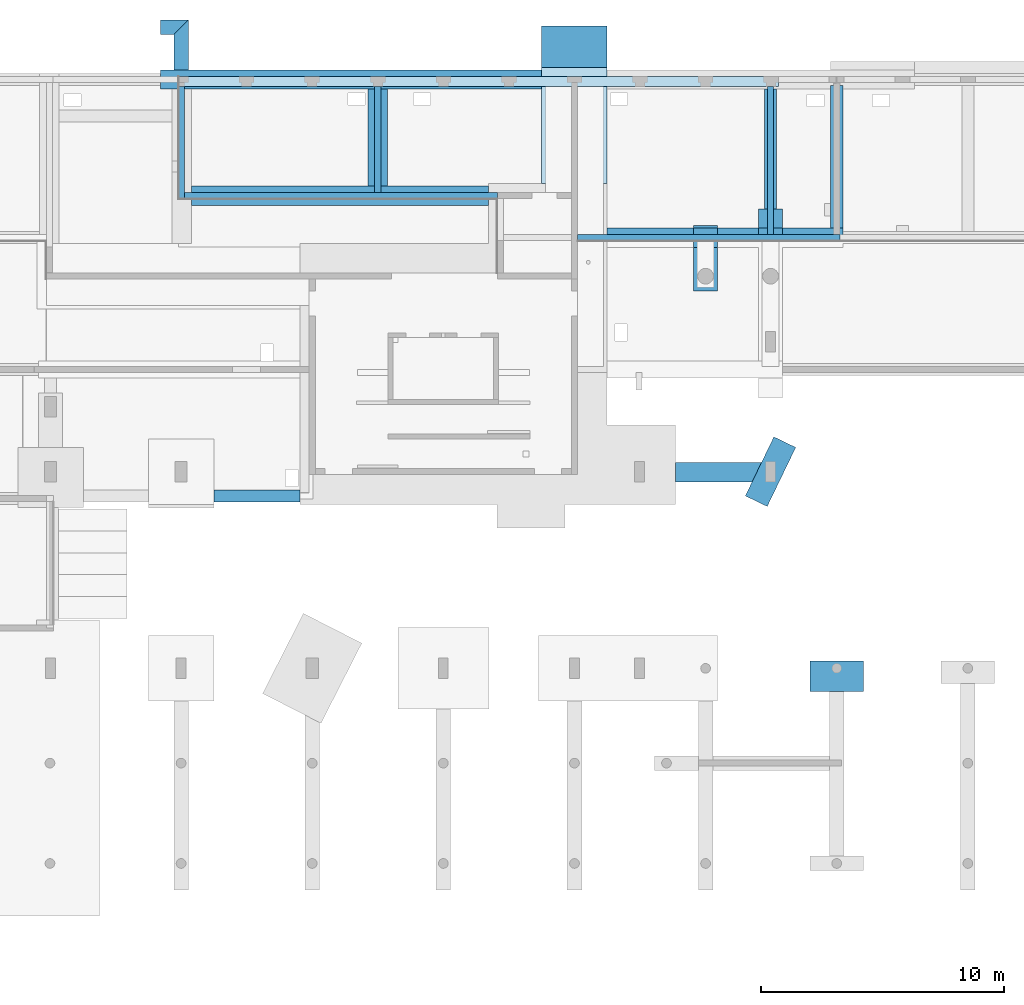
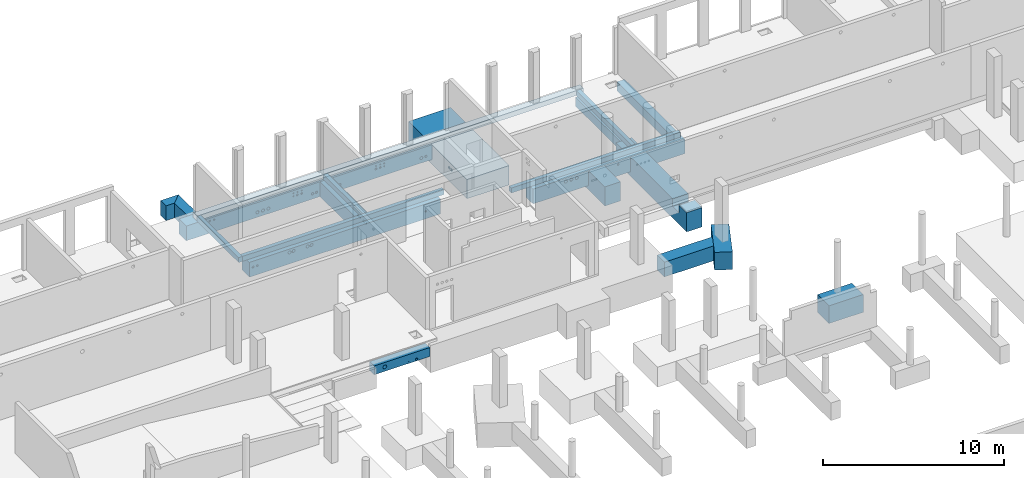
# One storey, part 4 of 60: 22 footings.
"""IFC2X3 building model written with IfcOpenShell, lengths in millimetres."""

from ifc_helpers import new_model, entity, si_unit, converted_unit, derived_unit, direction, frame, frame_2d, origin, place, context, subcontext, project, spatial, polyline, circle_curve, parameter, trimmed, segment, composite_curve, rectangle, outline, extrude, material, element, save


model = new_model("IFC2X3")

# Units and contexts
model_context = context("Model", 3, precision=0.01, world=origin(), true_north=direction((6.12303176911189e-17, 1.0)))
body_context = subcontext(model_context, "Body", "Model", "MODEL_VIEW")
ifc_project = project(units=[si_unit("LENGTHUNIT", "METRE", prefix="MILLI"), si_unit("AREAUNIT", "SQUARE_METRE"), si_unit("VOLUMEUNIT", "CUBIC_METRE"), converted_unit("PLANEANGLEUNIT", "DEGREE", entity("IfcRatioMeasure", 0.0174532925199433), si_unit("PLANEANGLEUNIT", "RADIAN"), dimensions=[0, 0, 0, 0, 0, 0, 0]), si_unit("MASSUNIT", "GRAM", prefix="KILO"), derived_unit("MASSDENSITYUNIT", [(si_unit("MASSUNIT", "GRAM", prefix="KILO"), 1), (si_unit("LENGTHUNIT", "METRE"), -3)]), si_unit("TIMEUNIT", "SECOND"), si_unit("FREQUENCYUNIT", "HERTZ"), si_unit("THERMODYNAMICTEMPERATUREUNIT", "DEGREE_CELSIUS"), derived_unit("THERMALTRANSMITTANCEUNIT", [(si_unit("MASSUNIT", "GRAM", prefix="KILO"), 1), (si_unit("THERMODYNAMICTEMPERATUREUNIT", "KELVIN"), -1), (si_unit("TIMEUNIT", "SECOND"), -3)]), derived_unit("VOLUMETRICFLOWRATEUNIT", [(si_unit("LENGTHUNIT", "METRE"), 3), (si_unit("TIMEUNIT", "SECOND"), -1)]), si_unit("ELECTRICCURRENTUNIT", "AMPERE"), si_unit("ELECTRICVOLTAGEUNIT", "VOLT"), si_unit("POWERUNIT", "WATT"), si_unit("FORCEUNIT", "NEWTON", prefix="KILO"), si_unit("ILLUMINANCEUNIT", "LUX"), si_unit("LUMINOUSFLUXUNIT", "LUMEN"), si_unit("LUMINOUSINTENSITYUNIT", "CANDELA"), derived_unit("USERDEFINED", [(si_unit("MASSUNIT", "GRAM", prefix="KILO"), -1), (si_unit("LENGTHUNIT", "METRE"), -2), (si_unit("TIMEUNIT", "SECOND"), 3), (si_unit("LUMINOUSFLUXUNIT", "LUMEN"), 1)]), derived_unit("LINEARVELOCITYUNIT", [(si_unit("LENGTHUNIT", "METRE"), 1), (si_unit("TIMEUNIT", "SECOND"), -1)]), si_unit("PRESSUREUNIT", "PASCAL"), derived_unit("USERDEFINED", [(si_unit("LENGTHUNIT", "METRE"), -2), (si_unit("MASSUNIT", "GRAM", prefix="KILO"), 1), (si_unit("TIMEUNIT", "SECOND"), -2)])], contexts=[model_context])

# Site, building, storey
site_placement = place(None, origin())
site = spatial("IfcSite", under=ifc_project, at=site_placement, Name="Default", CompositionType="ELEMENT")
building_placement = place(site_placement, origin())
building = spatial("IfcBuilding", under=site, at=building_placement, Name="niet gebruiken", CompositionType="ELEMENT")
storey_placement = place(building_placement, origin())
storey = spatial("IfcBuildingStorey", under=building, at=storey_placement, Name="00 begane grond", CompositionType="ELEMENT", Elevation=0.0)

# Footings
ifc_material = material(Name="NLRS_f2_beton ihwg")
footing_1_placement = place(storey_placement, origin())
element("IfcFooting", 1, at=footing_1_placement, inside=storey, material=ifc_material, Name="NLRS_16.12_SF_WPB_funderingsbalk ihwg recht_gen:500x600", ObjectType="NLRS_16.12_SF_WPB_funderingsbalk ihwg recht_gen:500x600", PredefinedType="FOOTING_BEAM", context=body_context, shape_type="SweptSolid", body=[
    extrude(rectangle(XDim=5860.00000000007, YDim=499.999999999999, at=frame_2d((-148.321101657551, -62.4999999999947), x_axis=(1.0, 0.0))), frame((59337.4999999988, 50099.3211016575, -1092.0), z_axis=(0.0, 0.0, 1.0), x_axis=(0.0, 1.0, 0.0)), (0.0, 0.0, 1.0), 599.999999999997),
])
footing_2_placement = place(storey_placement, origin())
element("IfcFooting", 2, at=footing_2_placement, inside=storey, material=ifc_material, Name="NLRS_16.12_SF_WPB_funderingsbalk ihwg recht_gen:800x1000", ObjectType="NLRS_16.12_SF_WPB_funderingsbalk ihwg recht_gen:800x1000", PredefinedType="FOOTING_BEAM", context=body_context, shape_type="SweptSolid", body=[
    extrude(rectangle(XDim=3980.0, YDim=800.0, at=frame_2d((4.32009983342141e-12, -4.34852154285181e-12), x_axis=(1.0, 0.0))), frame((40500.0, 50741.0, -1492.0), z_axis=(0.0, 0.0, 1.0), x_axis=(0.0, 1.0, 0.0)), (0.0, 0.0, 1.0), 999.999999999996),
])
footing_3_placement = place(storey_placement, origin())
element("IfcFooting", 3, at=footing_3_placement, inside=storey, material=ifc_material, Name="NLRS_16.12_SF_WPB_funderingsbalk ihwg recht_gen:800x1000", ObjectType="NLRS_16.12_SF_WPB_funderingsbalk ihwg recht_gen:800x1000", PredefinedType="FOOTING_BEAM", context=body_context, shape_type="SweptSolid", body=[
    extrude(outline(polyline([(-5208.33333329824, -500.0), (-1658.33333329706, -500.0), (-658.333333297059, -500.0), (1016.66666659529, -500.0), (2016.66666659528, -500.0), (4491.66666670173, -500.0), (4491.66666670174, 500.0), (2016.66666659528, 500.0), (1016.66666659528, 500.0), (-658.333333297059, 500.0), (-1658.33333329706, 500.0), (-5208.33333329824, 500.0), (-5208.33333329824, -500.0)]), holes=[composite_curve([segment(trimmed(circle_curve(frame_2d((-2758.2096558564, -277.0), x_axis=(1.0, 0.0)), 100.0), [parameter(4.07110999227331e-13)], [parameter(180.0)], True, "PARAMETER"), False, "CONTINUOUS"), segment(trimmed(circle_curve(frame_2d((-2758.2096558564, -277.0), x_axis=(1.0, 0.0)), 100.0), [parameter(180.0)], [parameter(360.0)], True, "PARAMETER"), False, "CONTINUOUS")], self_intersect=False), composite_curve([segment(trimmed(circle_curve(frame_2d((-3108.2096558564, -277.0), x_axis=(1.0, 0.0)), 100.0), [parameter(4.07110999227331e-13)], [parameter(180.0)], True, "PARAMETER"), False, "CONTINUOUS"), segment(trimmed(circle_curve(frame_2d((-3108.2096558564, -277.0), x_axis=(1.0, 0.0)), 100.0), [parameter(180.0)], [parameter(360.0)], True, "PARAMETER"), False, "CONTINUOUS")], self_intersect=False), composite_curve([segment(trimmed(circle_curve(frame_2d((-2408.20965585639, -277.0), x_axis=(1.0, 0.0)), 100.0), [parameter(4.07110999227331e-13)], [parameter(180.0)], True, "PARAMETER"), False, "CONTINUOUS"), segment(trimmed(circle_curve(frame_2d((-2408.20965585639, -277.0), x_axis=(1.0, 0.0)), 100.0), [parameter(180.0)], [parameter(360.0)], True, "PARAMETER"), False, "CONTINUOUS")], self_intersect=False), composite_curve([segment(trimmed(circle_curve(frame_2d((241.790344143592, -262.0), x_axis=(1.0, 0.0)), 62.5), [parameter(3.56222124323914e-13)], [parameter(180.0)], True, "PARAMETER"), False, "CONTINUOUS"), segment(trimmed(circle_curve(frame_2d((241.790344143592, -262.0), x_axis=(1.0, 0.0)), 62.5), [parameter(180.0)], [parameter(360.0)], True, "PARAMETER"), False, "CONTINUOUS")], self_intersect=False)]), frame((55158.333333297, 46221.0, -992.0), z_axis=(0.0, 1.0, 0.0), x_axis=(1.0, 0.0, 0.0)), (0.0, 0.0, 1.0), 800.0),
])
footing_4_placement = place(storey_placement, origin())
element("IfcFooting", 4, at=footing_4_placement, inside=storey, material=ifc_material, Name="NLRS_16.12_SF_WPB_funderingsbalk ihwg recht_gen:800x1000", ObjectType="NLRS_16.12_SF_WPB_funderingsbalk ihwg recht_gen:800x1000", PredefinedType="FOOTING_BEAM", context=body_context, shape_type="SweptSolid", body=[
    extrude(outline(polyline([(-6112.49999999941, -500.0), (6112.49999999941, -500.0), (6112.49999999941, 500.0), (-6112.49999999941, 500.0), (-6112.49999999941, -500.0)]), holes=[composite_curve([segment(trimmed(circle_curve(frame_2d((-5162.6196236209, 2.0), x_axis=(-1.0, 0.0)), 55.0), [parameter(4.07110999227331e-13)], [parameter(180.0)], True, "PARAMETER"), False, "CONTINUOUS"), segment(trimmed(circle_curve(frame_2d((-5162.6196236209, 2.0), x_axis=(-1.0, 0.0)), 55.0), [parameter(180.0)], [parameter(360.0)], True, "PARAMETER"), False, "CONTINUOUS")], self_intersect=False), composite_curve([segment(trimmed(circle_curve(frame_2d((2137.37632255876, 277.0), x_axis=(1.0, 0.0)), 100.0), [parameter(180.0)], [parameter(360.0)], True, "PARAMETER"), False, "CONTINUOUS"), segment(trimmed(circle_curve(frame_2d((2137.37632255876, 277.0), x_axis=(1.0, 0.0)), 100.0), [parameter(4.07110999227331e-13)], [parameter(180.0)], True, "PARAMETER"), False, "CONTINUOUS")], self_intersect=False), composite_curve([segment(trimmed(circle_curve(frame_2d((2387.37632255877, 277.0), x_axis=(1.0, 0.0)), 100.0), [parameter(180.0)], [parameter(360.0)], True, "PARAMETER"), False, "CONTINUOUS"), segment(trimmed(circle_curve(frame_2d((2387.37632255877, 277.0), x_axis=(1.0, 0.0)), 100.0), [parameter(4.07110999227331e-13)], [parameter(180.0)], True, "PARAMETER"), False, "CONTINUOUS")], self_intersect=False), composite_curve([segment(trimmed(circle_curve(frame_2d((3537.3270997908, 277.0), x_axis=(1.0, 0.0)), 100.0), [parameter(180.0)], [parameter(360.0)], True, "PARAMETER"), False, "CONTINUOUS"), segment(trimmed(circle_curve(frame_2d((3537.3270997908, 277.0), x_axis=(1.0, 0.0)), 100.0), [parameter(4.07110999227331e-13)], [parameter(180.0)], True, "PARAMETER"), False, "CONTINUOUS")], self_intersect=False), composite_curve([segment(trimmed(circle_curve(frame_2d((3287.3270997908, 277.0), x_axis=(1.0, 0.0)), 100.0), [parameter(180.0)], [parameter(360.0)], True, "PARAMETER"), False, "CONTINUOUS"), segment(trimmed(circle_curve(frame_2d((3287.3270997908, 277.0), x_axis=(1.0, 0.0)), 100.0), [parameter(4.07110999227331e-13)], [parameter(180.0)], True, "PARAMETER"), False, "CONTINUOUS")], self_intersect=False), composite_curve([segment(trimmed(circle_curve(frame_2d((5602.50000000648, 102.0), x_axis=(1.0, 0.0)), 62.5), [parameter(180.0)], [parameter(360.0)], True, "PARAMETER"), False, "CONTINUOUS"), segment(trimmed(circle_curve(frame_2d((5602.50000000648, 102.0), x_axis=(1.0, 0.0)), 62.5), [parameter(3.56222124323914e-13)], [parameter(180.0)], True, "PARAMETER"), False, "CONTINUOUS")], self_intersect=False), composite_curve([segment(trimmed(circle_curve(frame_2d((5877.50000000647, 102.0), x_axis=(1.0, 0.0)), 62.5), [parameter(180.0)], [parameter(360.0)], True, "PARAMETER"), False, "CONTINUOUS"), segment(trimmed(circle_curve(frame_2d((5877.50000000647, 102.0), x_axis=(1.0, 0.0)), 62.5), [parameter(3.56222124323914e-13)], [parameter(180.0)], True, "PARAMETER"), False, "CONTINUOUS")], self_intersect=False)]), frame((38937.4999999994, 47951.0, -992.0), z_axis=(0.0, 1.0, 0.0), x_axis=(-1.0, 0.0, 0.0)), (0.0, 0.0, 1.0), 800.0),
])
footing_5_placement = place(storey_placement, origin())
element("IfcFooting", 5, at=footing_5_placement, inside=storey, material=ifc_material, Name="NLRS_16.12_SF_WPB_funderingsbalk ihwg recht_gen:800x1000", ObjectType="NLRS_16.12_SF_WPB_funderingsbalk ihwg recht_gen:800x1000", PredefinedType="FOOTING_BEAM", context=body_context, shape_type="SweptSolid", body=[
    extrude(outline(polyline([(-5887.50000000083, -500.0), (-5417.49999999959, -500.0), (-4617.49999999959, -500.0), (2657.50000000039, -500.0), (3457.50000000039, -500.0), (9807.49999999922, -500.0), (9807.49999999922, 500.0), (3457.50000000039, 500.0), (2657.50000000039, 500.0), (-4617.49999999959, 500.0), (-5417.49999999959, 500.0), (-5887.50000000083, 500.0), (-5887.50000000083, -500.0)]), holes=[composite_curve([segment(trimmed(circle_curve(frame_2d((957.4999999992, -317.0), x_axis=(-1.0, 0.0)), 40.0), [parameter(180.0)], [parameter(360.0)], True, "PARAMETER"), False, "CONTINUOUS"), segment(trimmed(circle_curve(frame_2d((957.4999999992, -317.0), x_axis=(-1.0, 0.0)), 40.0), [parameter(4.07110999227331e-13)], [parameter(180.0)], True, "PARAMETER"), False, "CONTINUOUS")], self_intersect=False), composite_curve([segment(trimmed(circle_curve(frame_2d((1207.4999999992, -317.0), x_axis=(-1.0, 0.0)), 37.5), [parameter(180.0)], [parameter(360.0)], True, "PARAMETER"), False, "CONTINUOUS"), segment(trimmed(circle_curve(frame_2d((1207.4999999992, -317.0), x_axis=(-1.0, 0.0)), 37.5), [parameter(4.07110999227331e-13)], [parameter(180.0)], True, "PARAMETER"), False, "CONTINUOUS")], self_intersect=False), composite_curve([segment(trimmed(circle_curve(frame_2d((1482.49999999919, -317.0), x_axis=(-1.0, 0.0)), 40.0), [parameter(180.0)], [parameter(360.0)], True, "PARAMETER"), False, "CONTINUOUS"), segment(trimmed(circle_curve(frame_2d((1482.49999999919, -317.0), x_axis=(-1.0, 0.0)), 40.0), [parameter(4.07110999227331e-13)], [parameter(180.0)], True, "PARAMETER"), False, "CONTINUOUS")], self_intersect=False), composite_curve([segment(trimmed(circle_curve(frame_2d((1482.49999999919, -117.0), x_axis=(-1.0, 0.0)), 62.5), [parameter(180.0)], [parameter(360.0)], True, "PARAMETER"), False, "CONTINUOUS"), segment(trimmed(circle_curve(frame_2d((1482.49999999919, -117.0), x_axis=(-1.0, 0.0)), 62.5), [parameter(3.56222124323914e-13)], [parameter(180.0)], True, "PARAMETER"), False, "CONTINUOUS")], self_intersect=False), composite_curve([segment(trimmed(circle_curve(frame_2d((-642.37632255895, 158.0), x_axis=(-1.0, 0.0)), 100.0), [parameter(180.0)], [parameter(360.0)], True, "PARAMETER"), False, "CONTINUOUS"), segment(trimmed(circle_curve(frame_2d((-642.37632255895, 158.0), x_axis=(-1.0, 0.0)), 100.0), [parameter(4.07110999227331e-13)], [parameter(180.0)], True, "PARAMETER"), False, "CONTINUOUS")], self_intersect=False), composite_curve([segment(trimmed(circle_curve(frame_2d((-992.376322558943, 158.0), x_axis=(-1.0, 0.0)), 100.0), [parameter(180.0)], [parameter(360.0)], True, "PARAMETER"), False, "CONTINUOUS"), segment(trimmed(circle_curve(frame_2d((-992.376322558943, 158.0), x_axis=(-1.0, 0.0)), 100.0), [parameter(4.07110999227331e-13)], [parameter(180.0)], True, "PARAMETER"), False, "CONTINUOUS")], self_intersect=False), composite_curve([segment(trimmed(circle_curve(frame_2d((-1342.37632255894, 158.0), x_axis=(-1.0, 0.0)), 100.0), [parameter(180.0)], [parameter(360.0)], True, "PARAMETER"), False, "CONTINUOUS"), segment(trimmed(circle_curve(frame_2d((-1342.37632255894, 158.0), x_axis=(-1.0, 0.0)), 100.0), [parameter(4.07110999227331e-13)], [parameter(180.0)], True, "PARAMETER"), False, "CONTINUOUS")], self_intersect=False), composite_curve([segment(trimmed(circle_curve(frame_2d((2432.62367744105, 138.0), x_axis=(-1.0, 0.0)), 80.0), [parameter(180.0)], [parameter(360.0)], True, "PARAMETER"), False, "CONTINUOUS"), segment(trimmed(circle_curve(frame_2d((2432.62367744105, 138.0), x_axis=(-1.0, 0.0)), 80.0), [parameter(3.05333249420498e-13)], [parameter(180.0)], True, "PARAMETER"), False, "CONTINUOUS")], self_intersect=False), composite_curve([segment(trimmed(circle_curve(frame_2d((2182.73159649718, 138.0), x_axis=(-1.0, 0.0)), 80.0), [parameter(180.0)], [parameter(360.0)], True, "PARAMETER"), False, "CONTINUOUS"), segment(trimmed(circle_curve(frame_2d((2182.73159649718, 138.0), x_axis=(-1.0, 0.0)), 80.0), [parameter(3.05333249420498e-13)], [parameter(180.0)], True, "PARAMETER"), False, "CONTINUOUS")], self_intersect=False), composite_curve([segment(trimmed(circle_curve(frame_2d((3682.62367744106, 138.0), x_axis=(-1.0, 0.0)), 80.0), [parameter(180.0)], [parameter(360.0)], True, "PARAMETER"), False, "CONTINUOUS"), segment(trimmed(circle_curve(frame_2d((3682.62367744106, 138.0), x_axis=(-1.0, 0.0)), 80.0), [parameter(4.07110999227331e-13)], [parameter(180.0)], True, "PARAMETER"), False, "CONTINUOUS")], self_intersect=False), composite_curve([segment(trimmed(circle_curve(frame_2d((3932.51575838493, 138.0), x_axis=(-1.0, 0.0)), 80.0), [parameter(180.0)], [parameter(360.0)], True, "PARAMETER"), False, "CONTINUOUS"), segment(trimmed(circle_curve(frame_2d((3932.51575838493, 138.0), x_axis=(-1.0, 0.0)), 80.0), [parameter(3.05333249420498e-13)], [parameter(180.0)], True, "PARAMETER"), False, "CONTINUOUS")], self_intersect=False), composite_curve([segment(trimmed(circle_curve(frame_2d((6757.49999999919, -117.0), x_axis=(1.0, 0.0)), 37.5), [parameter(2.03555499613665e-13)], [parameter(180.0)], True, "PARAMETER"), False, "CONTINUOUS"), segment(trimmed(circle_curve(frame_2d((6757.49999999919, -117.0), x_axis=(1.0, 0.0)), 37.5), [parameter(180.0)], [parameter(359.999999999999)], True, "PARAMETER"), False, "CONTINUOUS")], self_intersect=False), composite_curve([segment(trimmed(circle_curve(frame_2d((6757.49999999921, -317.0), x_axis=(1.0, 0.0)), 40.0), [parameter(2.03555499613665e-13)], [parameter(180.0)], True, "PARAMETER"), False, "CONTINUOUS"), segment(trimmed(circle_curve(frame_2d((6757.49999999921, -317.0), x_axis=(1.0, 0.0)), 40.0), [parameter(180.0)], [parameter(359.999999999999)], True, "PARAMETER"), False, "CONTINUOUS")], self_intersect=False), composite_curve([segment(trimmed(circle_curve(frame_2d((6507.49999999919, -117.0), x_axis=(1.0, 0.0)), 62.5), [parameter(3.56222124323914e-13)], [parameter(180.0)], True, "PARAMETER"), False, "CONTINUOUS"), segment(trimmed(circle_curve(frame_2d((6507.49999999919, -117.0), x_axis=(1.0, 0.0)), 62.5), [parameter(180.0)], [parameter(360.0)], True, "PARAMETER"), False, "CONTINUOUS")], self_intersect=False), composite_curve([segment(trimmed(circle_curve(frame_2d((6232.49999999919, -117.0), x_axis=(1.0, 0.0)), 62.5), [parameter(3.56222124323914e-13)], [parameter(180.0)], True, "PARAMETER"), False, "CONTINUOUS"), segment(trimmed(circle_curve(frame_2d((6232.49999999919, -117.0), x_axis=(1.0, 0.0)), 62.5), [parameter(180.0)], [parameter(360.0)], True, "PARAMETER"), False, "CONTINUOUS")], self_intersect=False), composite_curve([segment(trimmed(circle_curve(frame_2d((6232.4999999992, -317.0), x_axis=(1.0, 0.0)), 40.0), [parameter(5.5977762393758e-13)], [parameter(180.0)], True, "PARAMETER"), False, "CONTINUOUS"), segment(trimmed(circle_curve(frame_2d((6232.4999999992, -317.0), x_axis=(1.0, 0.0)), 40.0), [parameter(180.0)], [parameter(360.0)], True, "PARAMETER"), False, "CONTINUOUS")], self_intersect=False), composite_curve([segment(trimmed(circle_curve(frame_2d((6507.49999999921, -317.0), x_axis=(1.0, 0.0)), 37.5), [parameter(2.03555499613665e-13)], [parameter(180.0)], True, "PARAMETER"), False, "CONTINUOUS"), segment(trimmed(circle_curve(frame_2d((6507.49999999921, -317.0), x_axis=(1.0, 0.0)), 37.5), [parameter(180.0)], [parameter(359.999999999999)], True, "PARAMETER"), False, "CONTINUOUS")], self_intersect=False), composite_curve([segment(trimmed(circle_curve(frame_2d((-4107.49999999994, -312.0), x_axis=(-1.0, 0.0)), 55.0), [parameter(180.0)], [parameter(360.0)], True, "PARAMETER"), False, "CONTINUOUS"), segment(trimmed(circle_curve(frame_2d((-4107.49999999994, -312.0), x_axis=(-1.0, 0.0)), 55.0), [parameter(4.07110999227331e-13)], [parameter(180.0)], True, "PARAMETER"), False, "CONTINUOUS")], self_intersect=False), composite_curve([segment(trimmed(circle_curve(frame_2d((-4382.49999999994, -312.0), x_axis=(-1.0, 0.0)), 55.0), [parameter(180.0)], [parameter(360.0)], True, "PARAMETER"), False, "CONTINUOUS"), segment(trimmed(circle_curve(frame_2d((-4382.49999999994, -312.0), x_axis=(-1.0, 0.0)), 55.0), [parameter(4.07110999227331e-13)], [parameter(180.0)], True, "PARAMETER"), False, "CONTINUOUS")], self_intersect=False), composite_curve([segment(trimmed(circle_curve(frame_2d((1207.4999999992, -117.0), x_axis=(-1.0, 0.0)), 62.5), [parameter(180.0)], [parameter(360.0)], True, "PARAMETER"), False, "CONTINUOUS"), segment(trimmed(circle_curve(frame_2d((1207.4999999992, -117.0), x_axis=(-1.0, 0.0)), 62.5), [parameter(3.56222124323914e-13)], [parameter(180.0)], True, "PARAMETER"), False, "CONTINUOUS")], self_intersect=False), composite_curve([segment(trimmed(circle_curve(frame_2d((957.4999999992, -117.0), x_axis=(-1.0, 0.0)), 37.5), [parameter(180.0)], [parameter(360.0)], True, "PARAMETER"), False, "CONTINUOUS"), segment(trimmed(circle_curve(frame_2d((957.4999999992, -117.0), x_axis=(-1.0, 0.0)), 37.5), [parameter(4.07110999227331e-13)], [parameter(180.0)], True, "PARAMETER"), False, "CONTINUOUS")], self_intersect=False), composite_curve([segment(trimmed(circle_curve(frame_2d((9427.49999999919, 158.0), x_axis=(-1.0, 0.0)), 80.0), [parameter(180.0)], [parameter(360.0)], True, "PARAMETER"), False, "CONTINUOUS"), segment(trimmed(circle_curve(frame_2d((9427.49999999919, 158.0), x_axis=(-1.0, 0.0)), 80.0), [parameter(5.08888749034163e-13)], [parameter(180.0)], True, "PARAMETER"), False, "CONTINUOUS")], self_intersect=False), composite_curve([segment(trimmed(circle_curve(frame_2d((9127.49999999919, 158.0), x_axis=(-1.0, 0.0)), 100.0), [parameter(180.0)], [parameter(360.0)], True, "PARAMETER"), False, "CONTINUOUS"), segment(trimmed(circle_curve(frame_2d((9127.49999999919, 158.0), x_axis=(-1.0, 0.0)), 100.0), [parameter(4.07110999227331e-13)], [parameter(180.0)], True, "PARAMETER"), False, "CONTINUOUS")], self_intersect=False)]), frame((37442.4999999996, 52731.0, -992.0), z_axis=(0.0, 1.0, 0.0), x_axis=(1.0, 0.0, 0.0)), (0.0, 0.0, 1.0), 800.0),
])
footing_6_placement = place(storey_placement, origin())
element("IfcFooting", 6, at=footing_6_placement, inside=storey, material=ifc_material, Name="NLRS_16.12_SF_WPB_opstort ihwg recht_gen:250x332", ObjectType="NLRS_16.12_SF_WPB_opstort ihwg recht_gen:250x332", PredefinedType="FOOTING_BEAM", context=body_context, shape_type="SweptSolid", body=[
    extrude(rectangle(XDim=10800.0, YDim=250.000000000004, at=frame_2d((507.692307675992, -9.61538461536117), x_axis=(1.0, 0.0))), frame((54632.6923076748, 46611.3846153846, -492.0), z_axis=(0.0, 0.0, 1.0), x_axis=(-1.0, 0.0, 0.0)), (0.0, 0.0, 1.0), 331.999999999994),
])
footing_7_placement = place(storey_placement, origin())
element("IfcFooting", 7, at=footing_7_placement, inside=storey, material=ifc_material, Name="NLRS_16.12_SF_WPB_opstort ihwg recht_gen:250x332", ObjectType="NLRS_16.12_SF_WPB_opstort ihwg recht_gen:250x332", PredefinedType="FOOTING_BEAM", context=body_context, shape_type="SweptSolid", body=[
    extrude(rectangle(XDim=12874.9999999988, YDim=249.999999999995, at=frame_2d((-504.166666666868, -41.6666666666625), x_axis=(1.0, 0.0))), frame((39491.6666666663, 48392.6666666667, -492.0)), (0.0, 0.0, 1.0), 331.999999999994),
])
footing_8_placement = place(storey_placement, origin())
element("IfcFooting", 8, at=footing_8_placement, inside=storey, material=ifc_material, Name="NLRS_16.12_SF_WPB_opstort ihwg recht_gen:250x332", ObjectType="NLRS_16.12_SF_WPB_opstort ihwg recht_gen:250x332", PredefinedType="FOOTING_BEAM", context=body_context, shape_type="SweptSolid", body=[
    extrude(rectangle(XDim=4620.00000000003, YDim=249.999999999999, at=frame_2d((574.36132915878, -17.8571428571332), x_axis=(1.0, 0.0))), frame((32407.1428571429, 49961.6386708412, -492.0), z_axis=(0.0, 0.0, 1.0), x_axis=(0.0, 1.0, 0.0)), (0.0, 0.0, 1.0), 331.999999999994),
])
footing_9_placement = place(storey_placement, origin())
element("IfcFooting", 9, at=footing_9_placement, inside=storey, material=ifc_material, Name="NLRS_16.12_SF_WPB_funderingsbalk ihwg recht_gen:2700x1300", ObjectType="NLRS_16.12_SF_WPB_funderingsbalk ihwg recht_gen:2700x1300", PredefinedType="FOOTING_BEAM", context=body_context, shape_type="SweptSolid", body=[
    extrude(outline(polyline([(-3020.0, -866.666666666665), (1760.0, -866.666666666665), (1760.0, 433.333333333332), (1660.0, 433.333333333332), (860.0, 433.333333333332), (-3020.0, 433.333333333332), (-3020.0, -866.666666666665)]), holes=[composite_curve([segment(trimmed(circle_curve(frame_2d((-1315.26100363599, 40.3333333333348), x_axis=(1.0, 0.0)), 80.0), [parameter(180.0)], [parameter(360.0)], True, "PARAMETER"), False, "CONTINUOUS"), segment(trimmed(circle_curve(frame_2d((-1315.26100363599, 40.3333333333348), x_axis=(1.0, 0.0)), 80.0), [parameter(3.05333249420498e-13)], [parameter(180.0)], True, "PARAMETER"), False, "CONTINUOUS")], self_intersect=False), composite_curve([segment(trimmed(circle_curve(frame_2d((-1065.26100363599, 40.3333333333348), x_axis=(1.0, 0.0)), 80.0), [parameter(180.0)], [parameter(360.0)], True, "PARAMETER"), False, "CONTINUOUS"), segment(trimmed(circle_curve(frame_2d((-1065.26100363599, 40.3333333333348), x_axis=(1.0, 0.0)), 80.0), [parameter(3.05333249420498e-13)], [parameter(180.0)], True, "PARAMETER"), False, "CONTINUOUS")], self_intersect=False)]), frame((47250.0, 51871.0, -925.333333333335), z_axis=(1.0, 0.0, 0.0), x_axis=(0.0, 1.0, 0.0)), (0.0, 0.0, 1.0), 2700.0),
])
footing_10_placement = place(storey_placement, origin())
element("IfcFooting", 10, at=footing_10_placement, inside=storey, material=ifc_material, Name="NLRS_16.12_SF_WPB_opstort ihwg recht_gen:250x332", ObjectType="NLRS_16.12_SF_WPB_opstort ihwg recht_gen:250x332", PredefinedType="FOOTING_BEAM", context=body_context, shape_type="SweptSolid", body=[
    extrude(rectangle(XDim=4370.00000000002, YDim=250.000000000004, at=frame_2d((8.64019966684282e-12, 4.33431068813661e-12), x_axis=(1.0, 0.0))), frame((40500.0, 50661.0, -492.0), z_axis=(0.0, 0.0, 1.0), x_axis=(0.0, 1.0, 0.0)), (0.0, 0.0, 1.0), 331.999999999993),
])
footing_11_placement = place(storey_placement, origin())
element("IfcFooting", 11, at=footing_11_placement, inside=storey, material=ifc_material, Name="NLRS_16.12_SF_WPB_opstort ihwg recht_gen:250x332", ObjectType="NLRS_16.12_SF_WPB_opstort ihwg recht_gen:250x332", PredefinedType="FOOTING_BEAM", context=body_context, shape_type="SweptSolid", body=[
    extrude(rectangle(XDim=6099.99999999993, YDim=249.999999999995, at=frame_2d((4.32009983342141e-12, 0.0), x_axis=(1.0, 0.0))), frame((56675.0, 49796.0, -492.0), z_axis=(0.0, 0.0, 1.0), x_axis=(0.0, 1.0, 0.0)), (0.0, 0.0, 1.0), 331.999999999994),
])
footing_12_placement = place(storey_placement, origin())
element("IfcFooting", 12, at=footing_12_placement, inside=storey, material=ifc_material, Name="NLRS_16.12_SF_WPB_funderingsbalk ihwg recht_gen:1000x1300", ObjectType="NLRS_16.12_SF_WPB_funderingsbalk ihwg recht_gen:1000x1300", PredefinedType="FOOTING_BEAM", context=body_context, shape_type="SweptSolid", body=[
    extrude(outline(polyline([(-925.0, -575.0), (-825.0, -575.0), (-825.0, 425.0), (-25.0, 425.0), (-25.0, -575.0), (1775.0, -575.0), (1775.0, 725.0), (-925.0, 725.0), (-925.0, -575.0)])), frame((53500.0, 46196.0, -1067.0), z_axis=(1.0, 0.0, 0.0), x_axis=(0.0, -1.0, 0.0)), (0.0, 0.0, 1.0), 999.999999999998),
])
footing_13_placement = place(storey_placement, origin())
element("IfcFooting", 13, at=footing_13_placement, inside=storey, material=ifc_material, Name="NLRS_16.12_SF_WPB_funderingsbalk ihwg recht_gen:1000x1300", ObjectType="NLRS_16.12_SF_WPB_funderingsbalk ihwg recht_gen:1000x1300", PredefinedType="FOOTING_BEAM", context=body_context, shape_type="SweptSolid", body=[
    extrude(outline(polyline([(-3899.66666665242, -831.666666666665), (3900.33333357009, -831.666666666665), (3900.33333357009, 468.333333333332), (3117.33333327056, 468.333333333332), (3117.33333327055, -531.666666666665), (2317.33333327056, -531.666666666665), (2317.33333327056, 468.333333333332), (-2367.66666672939, 468.333333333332), (-2367.66666672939, -41.666666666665), (-3067.66666672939, -41.666666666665), (-3067.66666672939, 468.333333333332), (-3899.66666665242, 468.333333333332), (-3899.66666665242, -831.666666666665)])), frame((56175.0, 43903.6666667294, -960.333333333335), z_axis=(1.0, 0.0, 0.0), x_axis=(0.0, 1.0, 0.0)), (0.0, 0.0, 1.0), 999.999999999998),
])
footing_14_placement = place(storey_placement, origin())
element("IfcFooting", 14, at=footing_14_placement, inside=storey, material=ifc_material, Name="NLRS_16.12_SF_WPB_funderingsbalk ihwg recht_gen:500x600", ObjectType="NLRS_16.12_SF_WPB_funderingsbalk ihwg recht_gen:500x600", PredefinedType="FOOTING_BEAM", context=body_context, shape_type="SweptSolid", body=[
    extrude(rectangle(XDim=4926.99999969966, YDim=500.000000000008, at=frame_2d((-4.15866452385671e-10, 4.33431068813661e-12), x_axis=(1.0, 0.0))), frame((56675.0, 50267.5000001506, -1092.0), z_axis=(0.0, 0.0, 1.0), x_axis=(0.0, -1.0, 0.0)), (0.0, 0.0, 1.0), 599.999999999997),
])
footing_15_placement = place(storey_placement, origin())
element("IfcFooting", 15, at=footing_15_placement, inside=storey, material=ifc_material, Name="NLRS_16.12_SF_WPB_funderingsbalk ihwg recht_gen:1000x1200", ObjectType="NLRS_16.12_SF_WPB_funderingsbalk ihwg recht_gen:1000x1200", PredefinedType="FOOTING_BEAM", context=body_context, shape_type="SweptSolid", body=[
    extrude(rectangle(XDim=2700.00000001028, YDim=1000.00000000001, at=frame_2d((-1.93267624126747e-12, 3.89377419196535e-12), x_axis=(1.0, 0.0))), frame((56675.0, 36981.0, -1750.0), z_axis=(0.0, 0.0, 1.0), x_axis=(-0.435407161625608, -0.900233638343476, 0.0)), (0.0, 0.0, 1.0), 1200.0),
])
footing_16_placement = place(storey_placement, origin())
element("IfcFooting", 16, at=footing_16_placement, inside=storey, material=ifc_material, Name="NLRS_16.12_SF_WPB_funderingsbalk ihwg recht_gen:1260x1200", ObjectType="NLRS_16.12_SF_WPB_funderingsbalk ihwg recht_gen:1260x1200", PredefinedType="FOOTING_BEAM", context=body_context, shape_type="SweptSolid", body=[
    extrude(rectangle(XDim=2199.99999999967, YDim=1260.0, at=frame_2d((-5.32054400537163e-11, 210.000000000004), x_axis=(1.0, 0.0))), frame((59400.0, 28341.0, -1400.0)), (0.0, 0.0, 1.0), 1200.0),
])
footing_17_placement = place(storey_placement, origin())
element("IfcFooting", 17, at=footing_17_placement, inside=storey, material=ifc_material, Name="NLRS_16.12_SF_WPB_funderingsbalk ihwg recht_gen:500x600", ObjectType="NLRS_16.12_SF_WPB_funderingsbalk ihwg recht_gen:500x600", PredefinedType="FOOTING_BEAM", context=body_context, shape_type="SweptSolid", body=[
    extrude(outline(polyline([(-1775.0, -300.0), (1775.0, -300.0), (1775.0, 300.0), (-1775.0, 300.0), (-1775.0, -300.0)]), holes=[composite_curve([segment(trimmed(circle_curve(frame_2d((-1100.0, -2.0), x_axis=(1.0, 0.0)), 125.0), [parameter(4.57999874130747e-13)], [parameter(180.0)], True, "PARAMETER"), False, "CONTINUOUS"), segment(trimmed(circle_curve(frame_2d((-1100.0, -2.0), x_axis=(1.0, 0.0)), 125.0), [parameter(180.0)], [parameter(360.0)], True, "PARAMETER"), False, "CONTINUOUS")], self_intersect=False), composite_curve([segment(trimmed(circle_curve(frame_2d((425.002381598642, 188.0), x_axis=(1.0, 0.0)), 24.9999999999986), [parameter(0.0)], [parameter(180.000000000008)], True, "PARAMETER"), False, "CONTINUOUS"), segment(trimmed(circle_curve(frame_2d((425.002381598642, 188.0), x_axis=(-1.0, 0.0)), 24.9999999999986), [parameter(0.0)], [parameter(180.000000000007)], True, "PARAMETER"), False, "CONTINUOUS")], self_intersect=False), composite_curve([segment(trimmed(circle_curve(frame_2d((925.002533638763, 188.0), x_axis=(1.0, 0.0)), 79.999999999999), [parameter(0.0)], [parameter(180.000000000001)], True, "PARAMETER"), False, "CONTINUOUS"), segment(trimmed(circle_curve(frame_2d((925.002533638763, 188.0), x_axis=(-1.0, 0.0)), 79.9999999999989), [parameter(0.0)], [parameter(180.000000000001)], True, "PARAMETER"), False, "CONTINUOUS")], self_intersect=False)]), frame((35525.0, 35731.0, -702.0), z_axis=(0.0, 1.0, 0.0), x_axis=(1.0, 0.0, 0.0)), (0.0, 0.0, 1.0), 500.000000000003),
])
footing_18_placement = place(storey_placement, origin())
element("IfcFooting", 18, at=footing_18_placement, inside=storey, material=ifc_material, Name="NLRS_16.12_SF_WPB_opstort ihwg recht_gen:410x332", ObjectType="NLRS_16.12_SF_WPB_opstort ihwg recht_gen:410x332", PredefinedType="FOOTING_BEAM", context=body_context, shape_type="SweptSolid", body=[
    extrude(rectangle(XDim=24709.9999999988, YDim=410.000000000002, at=frame_2d((-1989.16666666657, 123.333333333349), x_axis=(1.0, 0.0))), frame((46644.1666666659, 52927.6666666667, -492.0)), (0.0, 0.0, 1.0), 331.999999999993),
])
footing_19_placement = place(storey_placement, origin())
element("IfcFooting", 19, at=footing_19_placement, inside=storey, material=ifc_material, Name="NLRS_16.12_SF_WPB_funderingsbalk ihwg recht_gen:2700x1300", ObjectType="NLRS_16.12_SF_WPB_funderingsbalk ihwg recht_gen:2700x1300", PredefinedType="FOOTING_BEAM", context=body_context, shape_type="SweptSolid", body=[
    extrude(rectangle(XDim=1699.99999999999, YDim=2700.0, at=frame_2d((4.32009983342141e-12, 4.32009983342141e-12), x_axis=(1.0, 0.0))), frame((48600.0, 54481.0, -1792.0), z_axis=(0.0, 0.0, 1.0), x_axis=(0.0, -1.0, 0.0)), (0.0, 0.0, 1.0), 1300.0),
])
footing_20_placement = place(storey_placement, origin())
element("IfcFooting", 20, at=footing_20_placement, inside=storey, material=ifc_material, Name="NLRS_16.12_SF_WPB_funderingsbalk ihwg recht_gen:600x1000", ObjectType="NLRS_16.12_SF_WPB_funderingsbalk ihwg recht_gen:600x1000", PredefinedType="FOOTING_BEAM", context=body_context, shape_type="SweptSolid", body=[
    extrude(outline(polyline([(-575.0, -300.0), (875.0, -300.0), (875.0, 300.0), (-1175.0, 300.0), (-575.0, -300.0)])), frame((32400.0, 54406.0, -1492.0), z_axis=(0.0, 0.0, 1.0), x_axis=(0.0, -1.0, 0.0)), (0.0, 0.0, 1.0), 999.999999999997),
])
footing_21_placement = place(storey_placement, origin())
element("IfcFooting", 21, at=footing_21_placement, inside=storey, material=ifc_material, Name="NLRS_16.12_SF_WPB_funderingsbalk ihwg recht_gen:600x1000", ObjectType="NLRS_16.12_SF_WPB_funderingsbalk ihwg recht_gen:600x1000", PredefinedType="FOOTING_BEAM", context=body_context, shape_type="SweptSolid", body=[
    extrude(outline(polyline([(-422.500000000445, -300.0), (122.500000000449, -300.0), (722.500000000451, 300.0), (-422.500000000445, 300.0), (-422.500000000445, -300.0)])), frame((31977.4999999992, 55281.0, -1492.0)), (0.0, 0.0, 1.0), 999.999999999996),
])
footing_22_placement = place(storey_placement, origin())
element("IfcFooting", 22, at=footing_22_placement, inside=storey, material=ifc_material, Name="NLRS_16.12_SF_WPB_funderingsbalk ihwg recht_gen:800x1000", ObjectType="NLRS_16.12_SF_WPB_funderingsbalk ihwg recht_gen:800x1000", PredefinedType="FOOTING_BEAM", context=body_context, shape_type="SweptSolid", body=[
    extrude(outline(polyline([(-1673.74854385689, -400.0), (1480.28447271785, -400.0), (1867.21261499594, 400.0), (-1673.74854385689, 400.0), (-1673.74854385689, -400.0)])), frame((54433.7485438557, 36956.0, -1550.0)), (0.0, 0.0, 1.0), 999.999999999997),
])

save(model, "model.ifc")
